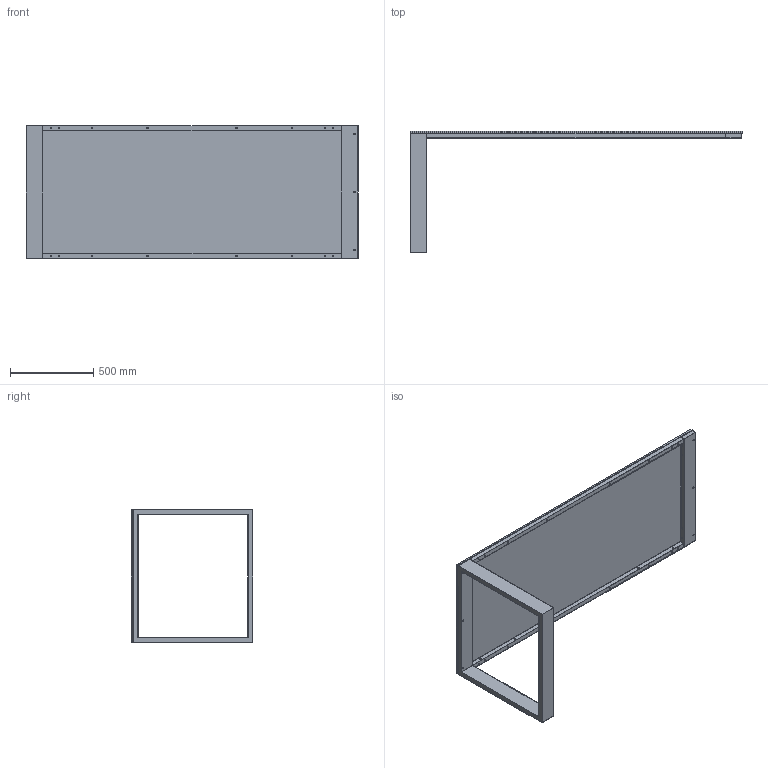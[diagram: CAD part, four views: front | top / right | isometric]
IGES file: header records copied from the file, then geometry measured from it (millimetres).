
Start section: SolidWorks IGES file using NURBS representation for surfaces
Global section: file name: G:\VICCARBE\PRODUCTOS\12-LEG-IN\04-MODELADOS (PLANOS)\SOLIDWORKS\LEG_IN 2011\ENSAMBLAJES\Mesas 3D\IGES\VICCARBE_LEB200A.IGS; native system: SolidWorks 2009; preprocessor: SolidWorks 2009; author: RUBEN; date: 111024.094846; units: millimetre
Bounding box: 2000 x 732 x 800 mm (x, y, z)
Surface area: 5957335.8 mm2 (no closed solid volume)
Topology: 0 solids, 0 shells, 223 faces, 4352 edges, 4324 vertices
Faces by surface type: bspline 223
